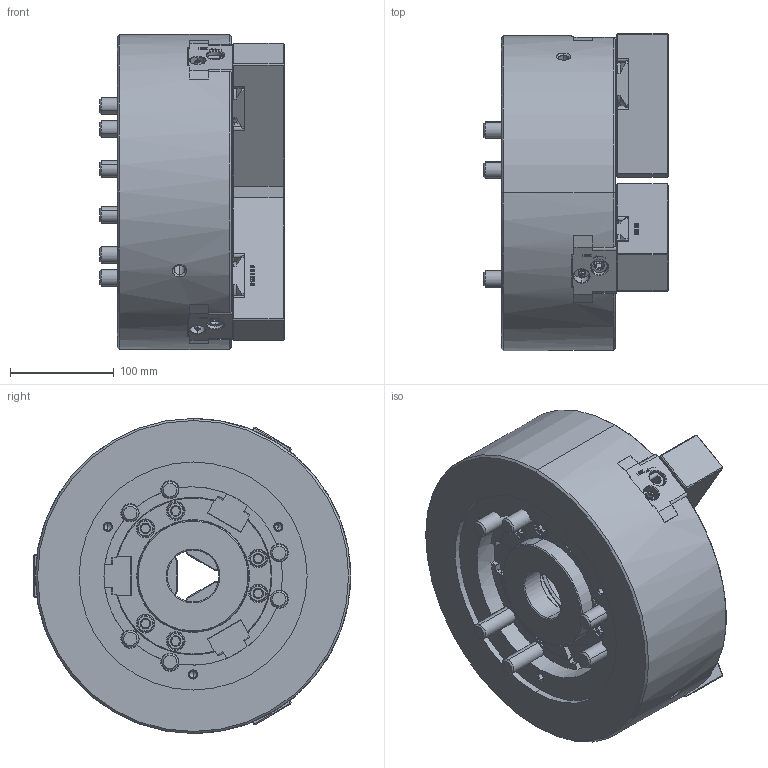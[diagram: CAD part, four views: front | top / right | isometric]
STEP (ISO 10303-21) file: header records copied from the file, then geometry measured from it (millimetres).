
FILE_DESCRIPTION (( 'STEP AP214' ), '1' );
FILE_NAME ('DT1_QB312_OUTSIDE_VIEW_HUL.STEP', '2025-12-05T07:12:52', ( '' ), ( '' ), 'SwSTEP 2.0', 'SolidWorks 2022', '' );
FILE_SCHEMA (( 'AUTOMOTIVE_DESIGN' ));
Length unit declared in the file: millimetre
Products named in the file (7): DT1_QB312_SOFTJAW^DT1_QB312; DT1_QB312_M6x10^DT1_QB312; DT1_QB312_DRAWNUT^DT1_QB312; DT1_QB312_OUTSIDE_VIEW_HUL; DT1_QB312_BASE^DT1_QB312; DT1_QB312_M16x110^DT1_QB312; DT1_QB312_COVER^DT1_QB312
Assembly tree (15 placements, depth 2):
  DT1_QB312_OUTSIDE_VIEW_HUL
    DT1_QB312_SOFTJAW^DT1_QB312  x3
    DT1_QB312_DRAWNUT^DT1_QB312
    DT1_QB312_COVER^DT1_QB312
    DT1_QB312_M6x10^DT1_QB312  x3
    DT1_QB312_M16x110^DT1_QB312  x6
    DT1_QB312_BASE^DT1_QB312
Bounding box: 178 x 306.15 x 304 mm (x, y, z)
Volume: 7734799.6 mm3; surface area: 564793.7 mm2
Topology: 15 solids, 18 shells, 2614 faces, 6809 edges, 4363 vertices
Faces by surface type: plane 1220, bspline 482, cylinder 428, cone 406, torus 66, sphere 12
Entity records: 76146 total; most frequent: CARTESIAN_POINT 27840, ORIENTED_EDGE 10602, DIRECTION 8815, EDGE_CURVE 5301, VERTEX_POINT 3426, AXIS2_PLACEMENT_3D 2975, LINE 2865, VECTOR 2865
